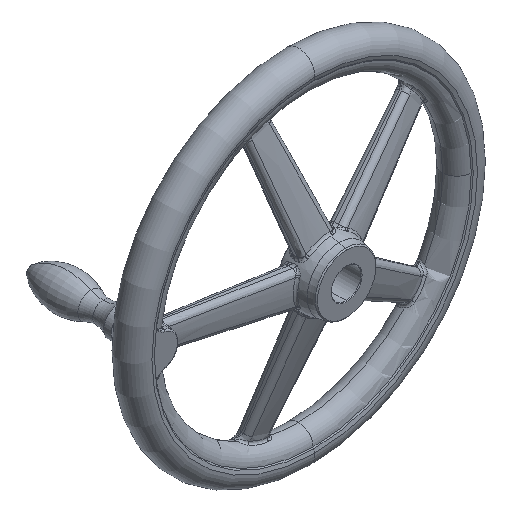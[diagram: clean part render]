
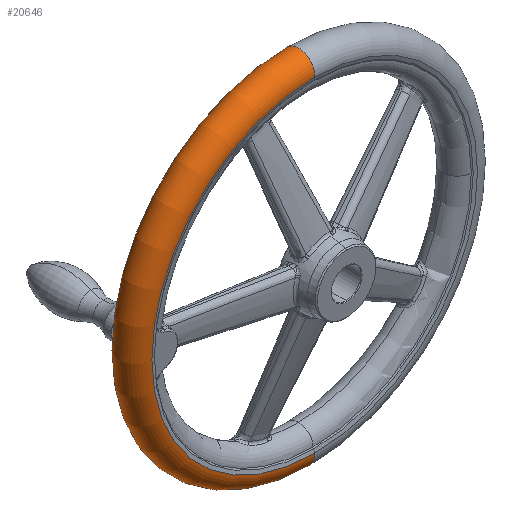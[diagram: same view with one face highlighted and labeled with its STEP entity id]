
A CAD part, isometric view. The second image highlights one B-rep face of the part: STEP entity #20646.
In plain terms, the highlighted toroidal (fillet/blend) face has major radius 143.462 mm and minor radius 14.039 mm.
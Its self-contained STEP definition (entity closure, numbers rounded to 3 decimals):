
#2244 = CARTESIAN_POINT ( 'NONE',  ( 0., 28., 142.423 ) ) ;
#2315 = DIRECTION ( 'NONE',  ( 0., 0., -1. ) ) ;
#2316 = DIRECTION ( 'NONE',  ( 0., -1., 0. ) ) ;
#2317 = CARTESIAN_POINT ( 'NONE',  ( 0., 28., 0. ) ) ;
#2326 = CIRCLE ( 'NONE', #2334, 142.423 ) ;
#2334 = AXIS2_PLACEMENT_3D ( 'NONE', #2317, #2316, #2315 ) ;
#2347 = CARTESIAN_POINT ( 'NONE',  ( 0., 28., -142.423 ) ) ;
#7113 = VERTEX_POINT ( 'NONE', #42734 ) ;
#19865 = EDGE_CURVE ( 'NONE', #36028, #21178, #51025, .T. ) ;
#19903 = EDGE_CURVE ( 'NONE', #7113, #21180, #51312, .T. ) ;
#20561 = ORIENTED_EDGE ( 'NONE', *, *, #21189, .F. ) ;
#20580 = EDGE_LOOP ( 'NONE', ( #20672, #20649, #20673, #20561 ) ) ;
#20646 = ADVANCED_FACE ( 'NONE', ( #53368 ), #53362, .T. ) ;
#20649 = ORIENTED_EDGE ( 'NONE', *, *, #36011, .T. ) ;
#20672 = ORIENTED_EDGE ( 'NONE', *, *, #19903, .F. ) ;
#20673 = ORIENTED_EDGE ( 'NONE', *, *, #19865, .T. ) ;
#21178 = VERTEX_POINT ( 'NONE', #2347 ) ;
#21180 = VERTEX_POINT ( 'NONE', #2244 ) ;
#21189 = EDGE_CURVE ( 'NONE', #21180, #21178, #2326, .T. ) ;
#33924 = DIRECTION ( 'NONE',  ( 0., 0., -1. ) ) ;
#33925 = DIRECTION ( 'NONE',  ( 0., -1., 0. ) ) ;
#33926 = CARTESIAN_POINT ( 'NONE',  ( 0., 56., 0. ) ) ;
#33927 = AXIS2_PLACEMENT_3D ( 'NONE', #33926, #33925, #33924 ) ;
#33928 = CIRCLE ( 'NONE', #33927, 142.423 ) ;
#33936 = CARTESIAN_POINT ( 'NONE',  ( 0., 56., -142.423 ) ) ;
#36011 = EDGE_CURVE ( 'NONE', #7113, #36028, #33928, .T. ) ;
#36028 = VERTEX_POINT ( 'NONE', #33936 ) ;
#42734 = CARTESIAN_POINT ( 'NONE',  ( 0., 56., 142.423 ) ) ;
#51019 = DIRECTION ( 'NONE',  ( 0., 0., 1. ) ) ;
#51020 = DIRECTION ( 'NONE',  ( -1., 0., 0. ) ) ;
#51021 = CARTESIAN_POINT ( 'NONE',  ( 0., 42., -143.462 ) ) ;
#51023 = AXIS2_PLACEMENT_3D ( 'NONE', #51021, #51020, #51019 ) ;
#51025 = CIRCLE ( 'NONE', #51023, 14.038 ) ;
#51256 = CARTESIAN_POINT ( 'NONE',  ( 0., 42., 143.462 ) ) ;
#51308 = DIRECTION ( 'NONE',  ( 0., 0., -1. ) ) ;
#51309 = DIRECTION ( 'NONE',  ( 1., 0., 0. ) ) ;
#51310 = AXIS2_PLACEMENT_3D ( 'NONE', #51256, #51309, #51308 ) ;
#51312 = CIRCLE ( 'NONE', #51310, 14.038 ) ;
#53358 = DIRECTION ( 'NONE',  ( 0., 0., -1. ) ) ;
#53359 = DIRECTION ( 'NONE',  ( 0., -1., 0. ) ) ;
#53360 = CARTESIAN_POINT ( 'NONE',  ( 0., 42., 0. ) ) ;
#53361 = AXIS2_PLACEMENT_3D ( 'NONE', #53360, #53359, #53358 ) ;
#53362 = TOROIDAL_SURFACE ( 'NONE', #53361, 143.462, 14.038 ) ;
#53368 = FACE_OUTER_BOUND ( 'NONE', #20580, .T. ) ;
